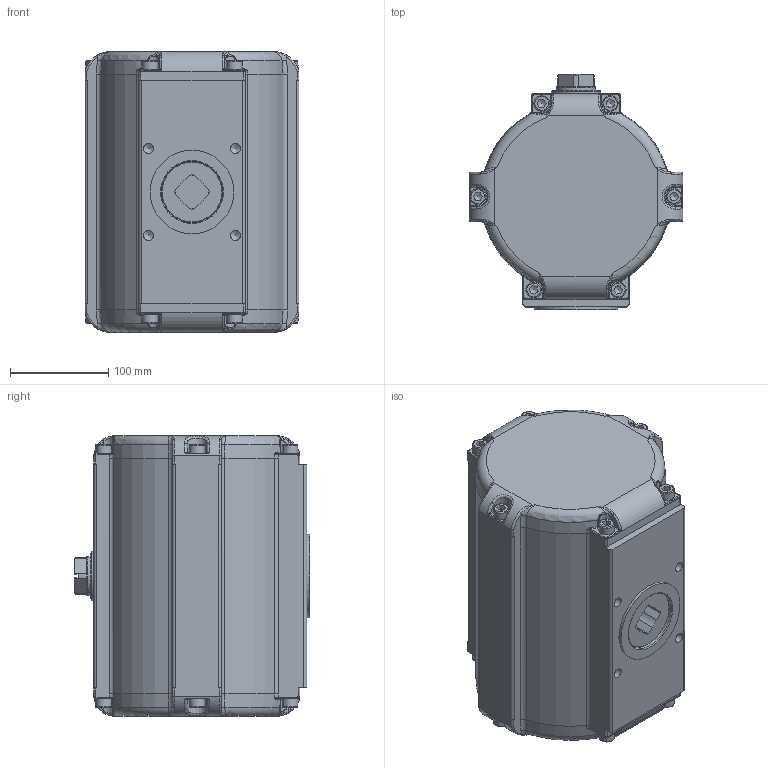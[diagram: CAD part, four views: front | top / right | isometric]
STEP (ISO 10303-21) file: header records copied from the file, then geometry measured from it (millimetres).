
FILE_DESCRIPTION(/* description */ (''),/* implementation_level */ '2;1');
FILE_NAME(/* name */ 'C:\Users\war\Desktop\BR03C_SAD_35.stp',/* time_stamp */ '2021-05-05T09:02:54+02:00',/* author */ ('war'),/* organization */ (''),/* preprocessor_version */ 'ST-DEVELOPER v18.1',/* originating_system */ 'Autodesk Inventor 2021',/* authorisation */ '');
FILE_SCHEMA (('AUTOMOTIVE_DESIGN { 1 0 10303 214 3 1 1 }'));
Products named in the file (1): ENG-038743_Shrinkwrap_1
Bounding box: 218 x 240 x 286 mm (x, y, z)
Volume: 3535074.1 mm3; surface area: 572095.8 mm2
Topology: 1 solids, 1 shells, 1572 faces, 4067 edges, 2458 vertices
Faces by surface type: bspline 408, cylinder 361, torus 351, plane 346, cone 102, sphere 4
Full cylindrical faces by diameter (mm): 2.5 x2, 4.134 x8, 4.917 x1, 5 x2, 8.376 x2, 10.106 x4, 11.445 x2, 16 x12, 30 x4, 34.9 x1, 36 x1, 37 x3, 39.8 x3, 40 x14, 40.1 x1, 45 x1, 50 x2, 56.9 x1, 57 x1, 60 x1, 61.8 x3, 62 x2, 85 x1, 176 x1, 180 x2
Entity records: 65998 total; most frequent: CARTESIAN_POINT 29917, ORIENTED_EDGE 7920, DIRECTION 6199, EDGE_CURVE 3960, AXIS2_PLACEMENT_3D 2634, VERTEX_POINT 2458, EDGE_LOOP 1655, STYLED_ITEM 1573
